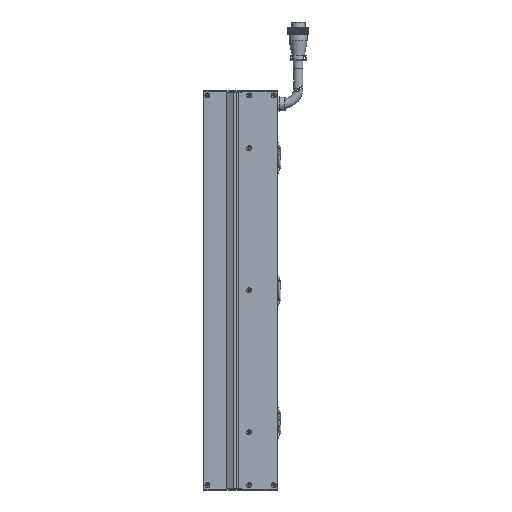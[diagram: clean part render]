
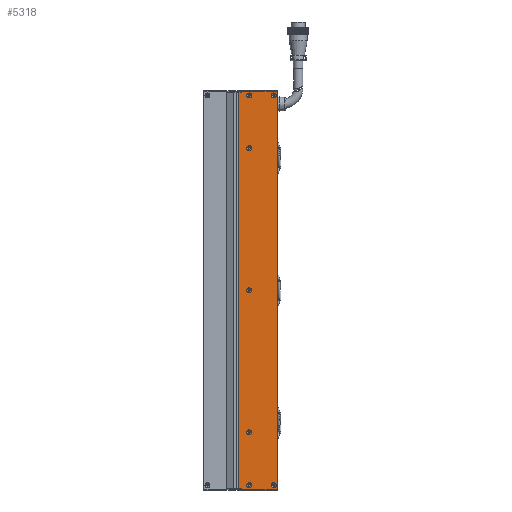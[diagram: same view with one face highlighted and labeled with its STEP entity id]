
A CAD part, left-side view. The second image highlights one B-rep face of the part: STEP entity #5318.
In plain terms, the highlighted planar face has unit normal (-1, 0, 0).
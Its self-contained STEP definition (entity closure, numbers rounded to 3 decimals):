
#78 = VECTOR ( 'NONE', #38649, 1000. ) ;
#154 = PLANE ( 'NONE',  #40393 ) ;
#1671 = VERTEX_POINT ( 'NONE', #39397 ) ;
#2309 = EDGE_LOOP ( 'NONE', ( #24361 ) ) ;
#2755 = VERTEX_POINT ( 'NONE', #42960 ) ;
#4023 = DIRECTION ( 'NONE',  ( 0., 0., 1. ) ) ;
#5318 = ADVANCED_FACE ( 'NONE', ( #25906, #13173, #38639, #86285, #23638, #31650, #67663, #81634 ), #154, .F. ) ;
#5357 = DIRECTION ( 'NONE',  ( 0., 0., -1. ) ) ;
#7674 = DIRECTION ( 'NONE',  ( 0., 0., -1. ) ) ;
#7929 = EDGE_CURVE ( 'NONE', #2755, #38503, #49976, .T. ) ;
#9118 = ORIENTED_EDGE ( 'NONE', *, *, #41832, .F. ) ;
#9849 = DIRECTION ( 'NONE',  ( 0., -1., 0. ) ) ;
#9924 = DIRECTION ( 'NONE',  ( -1., 0., 0. ) ) ;
#10565 = EDGE_CURVE ( 'NONE', #34020, #76927, #31191, .T. ) ;
#10824 = CARTESIAN_POINT ( 'NONE',  ( -24.998, -36.5, 183.15 ) ) ;
#12391 = CIRCLE ( 'NONE', #47379, 3.15 ) ;
#13173 = FACE_BOUND ( 'NONE', #2309, .T. ) ;
#13248 = ORIENTED_EDGE ( 'NONE', *, *, #32399, .F. ) ;
#14418 = VECTOR ( 'NONE', #45464, 1000. ) ;
#14499 = CARTESIAN_POINT ( 'NONE',  ( -24.998, -23.25, -251. ) ) ;
#14953 = EDGE_CURVE ( 'NONE', #28136, #28136, #83308, .T. ) ;
#16177 = ORIENTED_EDGE ( 'NONE', *, *, #16408, .T. ) ;
#16408 = EDGE_CURVE ( 'NONE', #17005, #67227, #87124, .T. ) ;
#16681 = EDGE_LOOP ( 'NONE', ( #83042 ) ) ;
#17005 = VERTEX_POINT ( 'NONE', #14499 ) ;
#17128 = LINE ( 'NONE', #26462, #93829 ) ;
#17409 = DIRECTION ( 'NONE',  ( 0., 0., 1. ) ) ;
#18269 = CARTESIAN_POINT ( 'NONE',  ( -24.998, -36.5, -243.85 ) ) ;
#18937 = CARTESIAN_POINT ( 'NONE',  ( -24.998, -36.5, 250.15 ) ) ;
#20544 = ORIENTED_EDGE ( 'NONE', *, *, #10565, .T. ) ;
#20778 = EDGE_LOOP ( 'NONE', ( #82840 ) ) ;
#22515 = CARTESIAN_POINT ( 'NONE',  ( -24.998, -26.5, -251. ) ) ;
#23638 = FACE_BOUND ( 'NONE', #28369, .T. ) ;
#23649 = DIRECTION ( 'NONE',  ( 0., 0., 1. ) ) ;
#23664 = VERTEX_POINT ( 'NONE', #10824 ) ;
#24361 = ORIENTED_EDGE ( 'NONE', *, *, #54385, .F. ) ;
#24474 = CARTESIAN_POINT ( 'NONE',  ( -24.998, -72.5, -252.5 ) ) ;
#24630 = CIRCLE ( 'NONE', #65721, 3.15 ) ;
#25534 = ORIENTED_EDGE ( 'NONE', *, *, #7929, .T. ) ;
#25906 = FACE_BOUND ( 'NONE', #79514, .T. ) ;
#26462 = CARTESIAN_POINT ( 'NONE',  ( -24.998, -26.5, -244. ) ) ;
#26545 = CARTESIAN_POINT ( 'NONE',  ( -24.998, -26.5, 251. ) ) ;
#28073 = ORIENTED_EDGE ( 'NONE', *, *, #42071, .F. ) ;
#28082 = DIRECTION ( 'NONE',  ( -1., 0., 0. ) ) ;
#28136 = VERTEX_POINT ( 'NONE', #45844 ) ;
#28151 = VECTOR ( 'NONE', #53620, 1000. ) ;
#28369 = EDGE_LOOP ( 'NONE', ( #75412 ) ) ;
#29453 = LINE ( 'NONE', #80886, #14418 ) ;
#29723 = DIRECTION ( 'NONE',  ( 1., 0., 0. ) ) ;
#30244 = CARTESIAN_POINT ( 'NONE',  ( -24.998, -36.5, -247. ) ) ;
#31191 = LINE ( 'NONE', #24474, #71785 ) ;
#31650 = FACE_BOUND ( 'NONE', #20778, .T. ) ;
#32399 = EDGE_CURVE ( 'NONE', #78156, #78156, #12391, .T. ) ;
#34020 = VERTEX_POINT ( 'NONE', #55145 ) ;
#37606 = EDGE_CURVE ( 'NONE', #23664, #23664, #63312, .T. ) ;
#38157 = CARTESIAN_POINT ( 'NONE',  ( -24.998, -72.5, 251. ) ) ;
#38159 = DIRECTION ( 'NONE',  ( -1., 0., 0. ) ) ;
#38318 = AXIS2_PLACEMENT_3D ( 'NONE', #64380, #28082, #71569 ) ;
#38503 = VERTEX_POINT ( 'NONE', #26545 ) ;
#38588 = VERTEX_POINT ( 'NONE', #18937 ) ;
#38639 = FACE_BOUND ( 'NONE', #53567, .T. ) ;
#38649 = DIRECTION ( 'NONE',  ( 0., 0., -1. ) ) ;
#39397 = CARTESIAN_POINT ( 'NONE',  ( -24.998, -72., 252.5 ) ) ;
#40393 = AXIS2_PLACEMENT_3D ( 'NONE', #66969, #29723, #7674 ) ;
#41461 = CIRCLE ( 'NONE', #41570, 3.15 ) ;
#41570 = AXIS2_PLACEMENT_3D ( 'NONE', #63062, #70546, #17409 ) ;
#41832 = EDGE_CURVE ( 'NONE', #38588, #38588, #41461, .T. ) ;
#41901 = EDGE_CURVE ( 'NONE', #67227, #34020, #17128, .T. ) ;
#42071 = EDGE_CURVE ( 'NONE', #17005, #59058, #72294, .T. ) ;
#42960 = CARTESIAN_POINT ( 'NONE',  ( -24.998, -26.5, 252.5 ) ) ;
#43619 = CARTESIAN_POINT ( 'NONE',  ( -24.998, -23.25, 251. ) ) ;
#43876 = DIRECTION ( 'NONE',  ( 0., 0., 1. ) ) ;
#45464 = DIRECTION ( 'NONE',  ( 0., 1., 0. ) ) ;
#45844 = CARTESIAN_POINT ( 'NONE',  ( -24.998, -36.5, -176.85 ) ) ;
#47379 = AXIS2_PLACEMENT_3D ( 'NONE', #30244, #51346, #43876 ) ;
#47668 = AXIS2_PLACEMENT_3D ( 'NONE', #71825, #63986, #4023 ) ;
#49017 = CARTESIAN_POINT ( 'NONE',  ( -24.998, -67.5, 250.15 ) ) ;
#49976 = LINE ( 'NONE', #84427, #78 ) ;
#51346 = DIRECTION ( 'NONE',  ( -1., 0., 0. ) ) ;
#52774 = VECTOR ( 'NONE', #83627, 1000. ) ;
#52778 = CIRCLE ( 'NONE', #38318, 3.15 ) ;
#53567 = EDGE_LOOP ( 'NONE', ( #9118 ) ) ;
#53620 = DIRECTION ( 'NONE',  ( 0., 0., 1. ) ) ;
#54055 = VECTOR ( 'NONE', #67367, 1000. ) ;
#54385 = EDGE_CURVE ( 'NONE', #78063, #78063, #61670, .T. ) ;
#55145 = CARTESIAN_POINT ( 'NONE',  ( -24.998, -26.5, -252.5 ) ) ;
#56892 = DIRECTION ( 'NONE',  ( -1., 0., 0. ) ) ;
#58197 = VERTEX_POINT ( 'NONE', #86759 ) ;
#58676 = EDGE_CURVE ( 'NONE', #76927, #1671, #80892, .T. ) ;
#59058 = VERTEX_POINT ( 'NONE', #43619 ) ;
#60648 = EDGE_CURVE ( 'NONE', #58197, #58197, #24630, .T. ) ;
#61670 = CIRCLE ( 'NONE', #47668, 3.15 ) ;
#63062 = CARTESIAN_POINT ( 'NONE',  ( -24.998, -36.5, 247. ) ) ;
#63312 = CIRCLE ( 'NONE', #75047, 3.15 ) ;
#63986 = DIRECTION ( 'NONE',  ( -1., 0., 0. ) ) ;
#64122 = DIRECTION ( 'NONE',  ( 0., -1., 0. ) ) ;
#64380 = CARTESIAN_POINT ( 'NONE',  ( -24.998, -36.5, 0. ) ) ;
#65096 = CARTESIAN_POINT ( 'NONE',  ( -24.998, -72.5, -251. ) ) ;
#65721 = AXIS2_PLACEMENT_3D ( 'NONE', #94362, #56892, #85879 ) ;
#66969 = CARTESIAN_POINT ( 'NONE',  ( -24.998, -72.5, 251. ) ) ;
#67041 = CARTESIAN_POINT ( 'NONE',  ( -24.998, -72., 251. ) ) ;
#67227 = VERTEX_POINT ( 'NONE', #22515 ) ;
#67367 = DIRECTION ( 'NONE',  ( 0., 0., 1. ) ) ;
#67498 = VERTEX_POINT ( 'NONE', #89368 ) ;
#67663 = FACE_BOUND ( 'NONE', #81460, .T. ) ;
#67897 = ORIENTED_EDGE ( 'NONE', *, *, #58676, .T. ) ;
#70546 = DIRECTION ( 'NONE',  ( -1., 0., 0. ) ) ;
#71569 = DIRECTION ( 'NONE',  ( 0., 0., 1. ) ) ;
#71785 = VECTOR ( 'NONE', #9849, 1000. ) ;
#71825 = CARTESIAN_POINT ( 'NONE',  ( -24.998, -67.5, 247. ) ) ;
#72294 = LINE ( 'NONE', #83842, #28151 ) ;
#73072 = EDGE_CURVE ( 'NONE', #67498, #67498, #52778, .T. ) ;
#74974 = ORIENTED_EDGE ( 'NONE', *, *, #80878, .F. ) ;
#75047 = AXIS2_PLACEMENT_3D ( 'NONE', #76426, #9924, #91439 ) ;
#75319 = AXIS2_PLACEMENT_3D ( 'NONE', #88213, #38159, #23649 ) ;
#75412 = ORIENTED_EDGE ( 'NONE', *, *, #73072, .F. ) ;
#75648 = ORIENTED_EDGE ( 'NONE', *, *, #14953, .F. ) ;
#76426 = CARTESIAN_POINT ( 'NONE',  ( -24.998, -36.5, 180. ) ) ;
#76927 = VERTEX_POINT ( 'NONE', #93285 ) ;
#78063 = VERTEX_POINT ( 'NONE', #49017 ) ;
#78156 = VERTEX_POINT ( 'NONE', #18269 ) ;
#79514 = EDGE_LOOP ( 'NONE', ( #75648 ) ) ;
#80878 = EDGE_CURVE ( 'NONE', #59058, #38503, #92344, .T. ) ;
#80886 = CARTESIAN_POINT ( 'NONE',  ( -24.998, -72.5, 252.5 ) ) ;
#80892 = LINE ( 'NONE', #67041, #54055 ) ;
#81460 = EDGE_LOOP ( 'NONE', ( #13248 ) ) ;
#81634 = FACE_OUTER_BOUND ( 'NONE', #91408, .T. ) ;
#82146 = ORIENTED_EDGE ( 'NONE', *, *, #94814, .T. ) ;
#82840 = ORIENTED_EDGE ( 'NONE', *, *, #60648, .F. ) ;
#83042 = ORIENTED_EDGE ( 'NONE', *, *, #37606, .F. ) ;
#83308 = CIRCLE ( 'NONE', #75319, 3.15 ) ;
#83558 = VECTOR ( 'NONE', #64122, 1000. ) ;
#83627 = DIRECTION ( 'NONE',  ( 0., -1., 0. ) ) ;
#83842 = CARTESIAN_POINT ( 'NONE',  ( -24.998, -23.25, -251. ) ) ;
#84427 = CARTESIAN_POINT ( 'NONE',  ( -24.998, -26.5, 244. ) ) ;
#85879 = DIRECTION ( 'NONE',  ( 0., 0., 1. ) ) ;
#86285 = FACE_BOUND ( 'NONE', #16681, .T. ) ;
#86759 = CARTESIAN_POINT ( 'NONE',  ( -24.998, -67.5, -243.85 ) ) ;
#87124 = LINE ( 'NONE', #65096, #83558 ) ;
#88213 = CARTESIAN_POINT ( 'NONE',  ( -24.998, -36.5, -180. ) ) ;
#89368 = CARTESIAN_POINT ( 'NONE',  ( -24.998, -36.5, 3.15 ) ) ;
#91408 = EDGE_LOOP ( 'NONE', ( #16177, #94372, #20544, #67897, #82146, #25534, #74974, #28073 ) ) ;
#91439 = DIRECTION ( 'NONE',  ( 0., 0., 1. ) ) ;
#92344 = LINE ( 'NONE', #38157, #52774 ) ;
#93285 = CARTESIAN_POINT ( 'NONE',  ( -24.998, -72., -252.5 ) ) ;
#93829 = VECTOR ( 'NONE', #5357, 1000. ) ;
#94362 = CARTESIAN_POINT ( 'NONE',  ( -24.998, -67.5, -247. ) ) ;
#94372 = ORIENTED_EDGE ( 'NONE', *, *, #41901, .T. ) ;
#94814 = EDGE_CURVE ( 'NONE', #1671, #2755, #29453, .T. ) ;
